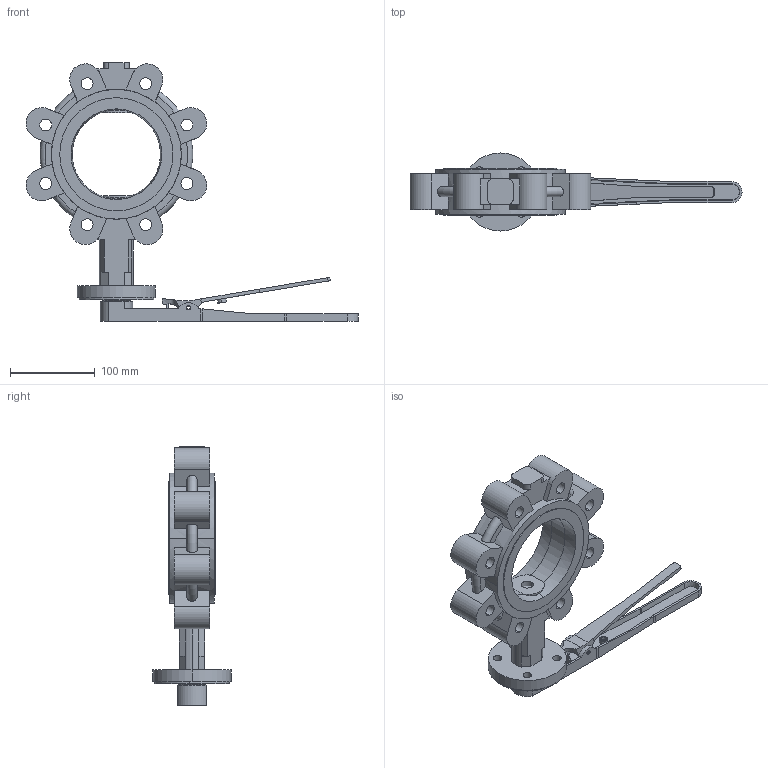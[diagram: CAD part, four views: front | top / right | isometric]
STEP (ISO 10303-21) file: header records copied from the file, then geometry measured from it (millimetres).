
FILE_DESCRIPTION (( 'STEP AP203' ), '1' );
FILE_NAME ('DN100凸耳手柄.STEP', '2026-06-16T07:50:07', ( '微软用户' ), ( '微软中国' ), 'SwSTEP 2.0', 'SolidWorks 2024', '' );
FILE_SCHEMA (( 'CONFIG_CONTROL_DESIGN' ));
Length unit declared in the file: millimetre
Products named in the file (8): 100凸耳，7.85公斤; 衬胶4寸; 3寸齿盘; spring pin slotted light duty1 gb_GB_PARALLEL_PINS_TYPE7 5X35; 玛钢手柄装配11; DN100凸耳手柄; 玛钢手柄弹簧本体11; 玛钢手柄本体11
Assembly tree (7 placements, depth 3):
  DN100凸耳手柄
    100凸耳，7.85公斤
    衬胶4寸
    玛钢手柄装配11
      玛钢手柄本体11
      玛钢手柄弹簧本体11
      spring pin slotted light duty1 gb_GB_PARALLEL_PINS_TYPE7 5X35
    3寸齿盘
Bounding box: 391.24 x 92 x 305 mm (x, y, z)
Volume: 1214286.8 mm3; surface area: 294920.3 mm2
Topology: 7 solids, 7 shells, 327 faces, 889 edges, 586 vertices
Faces by surface type: plane 162, cylinder 118, cone 27, torus 18, bspline 2
Entity records: 12184 total; most frequent: CARTESIAN_POINT 2788, DIRECTION 1841, ORIENTED_EDGE 1778, EDGE_CURVE 889, AXIS2_PLACEMENT_3D 678, VERTEX_POINT 586, LINE 485, VECTOR 485
